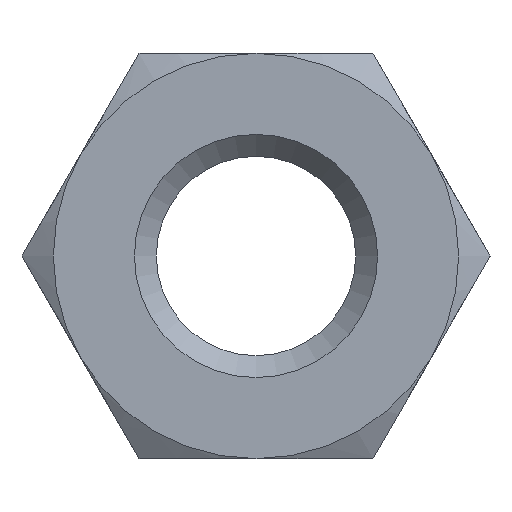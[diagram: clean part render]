
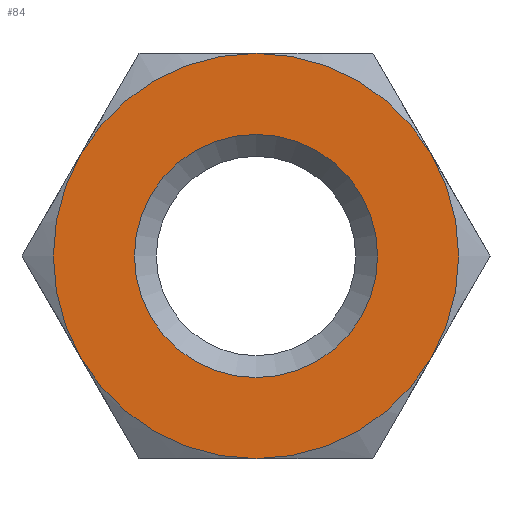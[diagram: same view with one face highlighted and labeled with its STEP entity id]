
A CAD part, left-side view. The second image highlights one B-rep face of the part: STEP entity #84.
In plain terms, the highlighted planar face has unit normal (-1, 0, 0).
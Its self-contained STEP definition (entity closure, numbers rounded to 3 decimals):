
#84 = ADVANCED_FACE( '', ( #118, #119 ), #120, .F. );
#118 = FACE_OUTER_BOUND( '', #169, .T. );
#119 = FACE_BOUND( '', #170, .T. );
#120 = PLANE( '', #171 );
#169 = EDGE_LOOP( '', ( #268, #269, #270, #271, #272, #273 ) );
#170 = EDGE_LOOP( '', ( #274 ) );
#171 = AXIS2_PLACEMENT_3D( '', #275, #276, #277 );
#268 = ORIENTED_EDGE( '', *, *, #391, .F. );
#269 = ORIENTED_EDGE( '', *, *, #392, .F. );
#270 = ORIENTED_EDGE( '', *, *, #393, .F. );
#271 = ORIENTED_EDGE( '', *, *, #389, .F. );
#272 = ORIENTED_EDGE( '', *, *, #387, .F. );
#273 = ORIENTED_EDGE( '', *, *, #388, .F. );
#274 = ORIENTED_EDGE( '', *, *, #394, .T. );
#275 = CARTESIAN_POINT( '', ( 0., 0., 0. ) );
#276 = DIRECTION( '', ( 1., 0., 0. ) );
#277 = DIRECTION( '', ( 0., 0., -1. ) );
#387 = EDGE_CURVE( '', #417, #435, #451, .T. );
#388 = EDGE_CURVE( '', #426, #417, #452, .T. );
#389 = EDGE_CURVE( '', #435, #453, #454, .T. );
#391 = EDGE_CURVE( '', #456, #426, #457, .T. );
#392 = EDGE_CURVE( '', #458, #456, #459, .T. );
#393 = EDGE_CURVE( '', #453, #458, #460, .T. );
#394 = EDGE_CURVE( '', #461, #461, #462, .T. );
#417 = VERTEX_POINT( '', #503 );
#426 = VERTEX_POINT( '', #533 );
#435 = VERTEX_POINT( '', #563 );
#451 = CIRCLE( '', #599, 5. );
#452 = CIRCLE( '', #600, 5. );
#453 = VERTEX_POINT( '', #601 );
#454 = CIRCLE( '', #602, 5. );
#456 = VERTEX_POINT( '', #611 );
#457 = CIRCLE( '', #612, 5. );
#458 = VERTEX_POINT( '', #613 );
#459 = CIRCLE( '', #614, 5. );
#460 = CIRCLE( '', #615, 5. );
#461 = VERTEX_POINT( '', #616 );
#462 = CIRCLE( '', #617, 3. );
#503 = CARTESIAN_POINT( '', ( 0., 0., 5. ) );
#533 = CARTESIAN_POINT( '', ( 0., 4.33, 2.5 ) );
#563 = CARTESIAN_POINT( '', ( 0., -4.33, 2.5 ) );
#599 = AXIS2_PLACEMENT_3D( '', #707, #708, #709 );
#600 = AXIS2_PLACEMENT_3D( '', #710, #711, #712 );
#601 = CARTESIAN_POINT( '', ( 0., -4.33, -2.5 ) );
#602 = AXIS2_PLACEMENT_3D( '', #713, #714, #715 );
#611 = CARTESIAN_POINT( '', ( 0., 4.33, -2.5 ) );
#612 = AXIS2_PLACEMENT_3D( '', #716, #717, #718 );
#613 = CARTESIAN_POINT( '', ( 0., 0., -5. ) );
#614 = AXIS2_PLACEMENT_3D( '', #719, #720, #721 );
#615 = AXIS2_PLACEMENT_3D( '', #722, #723, #724 );
#616 = CARTESIAN_POINT( '', ( 0., 3., 0. ) );
#617 = AXIS2_PLACEMENT_3D( '', #725, #726, #727 );
#707 = CARTESIAN_POINT( '', ( 0., 0., 0. ) );
#708 = DIRECTION( '', ( 1., 0., 0. ) );
#709 = DIRECTION( '', ( 0., 0., -1. ) );
#710 = CARTESIAN_POINT( '', ( 0., 0., 0. ) );
#711 = DIRECTION( '', ( 1., 0., 0. ) );
#712 = DIRECTION( '', ( 0., 0., -1. ) );
#713 = CARTESIAN_POINT( '', ( 0., 0., 0. ) );
#714 = DIRECTION( '', ( 1., 0., 0. ) );
#715 = DIRECTION( '', ( 0., 0., -1. ) );
#716 = CARTESIAN_POINT( '', ( 0., 0., 0. ) );
#717 = DIRECTION( '', ( 1., 0., 0. ) );
#718 = DIRECTION( '', ( 0., 0., -1. ) );
#719 = CARTESIAN_POINT( '', ( 0., 0., 0. ) );
#720 = DIRECTION( '', ( 1., 0., 0. ) );
#721 = DIRECTION( '', ( 0., 0., -1. ) );
#722 = CARTESIAN_POINT( '', ( 0., 0., 0. ) );
#723 = DIRECTION( '', ( 1., 0., 0. ) );
#724 = DIRECTION( '', ( 0., 0., -1. ) );
#725 = CARTESIAN_POINT( '', ( 0., 0., 0. ) );
#726 = DIRECTION( '', ( 1., 0., 0. ) );
#727 = DIRECTION( '', ( 0., 1., 0. ) );
